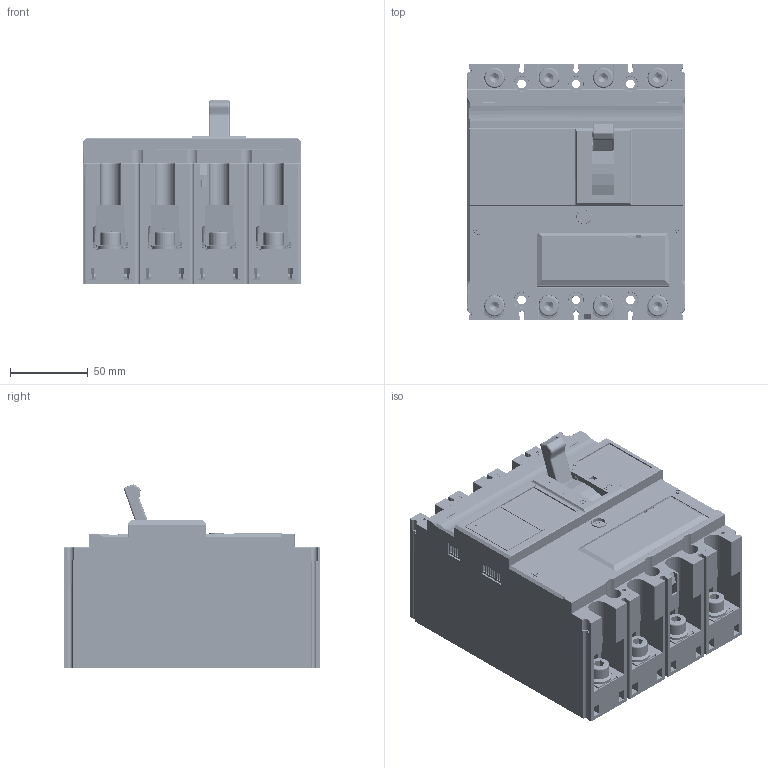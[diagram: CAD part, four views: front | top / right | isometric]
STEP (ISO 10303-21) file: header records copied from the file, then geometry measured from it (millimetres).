
FILE_DESCRIPTION (( 'STEP AP214' ), '1' );
FILE_NAME ('MNX250L_M_H_4P ﾈﾇﾌ.STEP', '2024-12-04T10:58:24', ( '' ), ( '' ), 'SwSTEP 2.0', 'SolidWorks 2022', '' );
FILE_SCHEMA (( 'AUTOMOTIVE_DESIGN' ));
Length unit declared in the file: millimetre
Products named in the file (1): MNX250L_M_H_4P ИЗМ
Bounding box: 140 x 165 x 118.08 mm (x, y, z)
Volume: 714329 mm3; surface area: 663081.6 mm2
Topology: 92 solids, 92 shells, 18620 faces, 52209 edges, 33923 vertices
Faces by surface type: plane 11592, cylinder 5592, cone 632, bspline 455, torus 273, sphere 76
Entity records: 852265 total; most frequent: CARTESIAN_POINT 166351, ORIENTED_EDGE 104244, DIRECTION 96157, EDGE_CURVE 52122, LINE 37433, VECTOR 37433, VERTEX_POINT 33923, AXIS2_PLACEMENT_3D 29362
